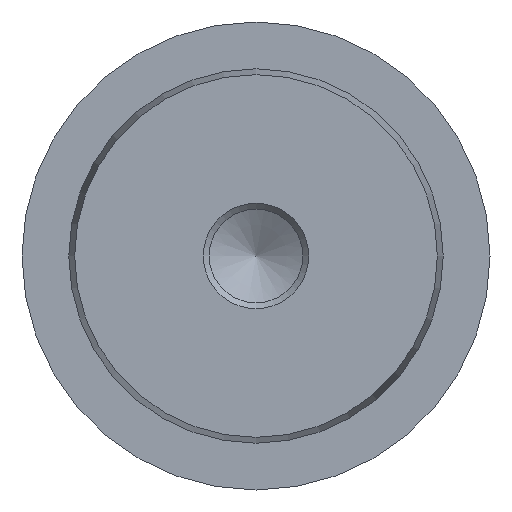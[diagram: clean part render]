
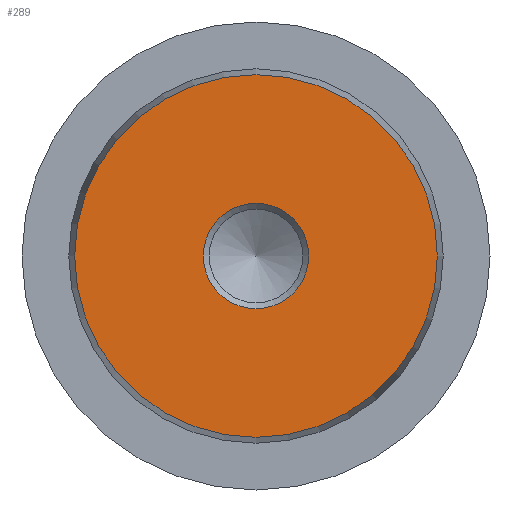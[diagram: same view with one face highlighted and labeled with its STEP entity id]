
A CAD part, left-side view. The second image highlights one B-rep face of the part: STEP entity #289.
In plain terms, the highlighted planar face has unit normal (-1, 0, 0).
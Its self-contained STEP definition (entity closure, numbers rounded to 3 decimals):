
#22=FACE_BOUND('',#94,.T.);
#26=PLANE('',#338);
#72=FACE_OUTER_BOUND('',#93,.T.);
#93=EDGE_LOOP('',(#210));
#94=EDGE_LOOP('',(#211));
#119=CIRCLE('',#337,4.5);
#120=CIRCLE('',#339,15.5);
#139=VERTEX_POINT('',#487);
#140=VERTEX_POINT('',#491);
#165=EDGE_CURVE('',#139,#139,#119,.T.);
#166=EDGE_CURVE('',#140,#140,#120,.T.);
#210=ORIENTED_EDGE('',*,*,#166,.F.);
#211=ORIENTED_EDGE('',*,*,#165,.T.);
#289=ADVANCED_FACE('',(#72,#22),#26,.T.);
#337=AXIS2_PLACEMENT_3D('',#489,#396,#397);
#338=AXIS2_PLACEMENT_3D('',#490,#398,#399);
#339=AXIS2_PLACEMENT_3D('',#492,#400,#401);
#396=DIRECTION('center_axis',(1.,0.,0.));
#397=DIRECTION('ref_axis',(0.,0.,-1.));
#398=DIRECTION('center_axis',(-1.,0.,0.));
#399=DIRECTION('ref_axis',(0.,0.,1.));
#400=DIRECTION('center_axis',(1.,0.,0.));
#401=DIRECTION('ref_axis',(0.,0.,-1.));
#487=CARTESIAN_POINT('',(0.,-4.5,0.));
#489=CARTESIAN_POINT('Origin',(0.,0.,0.));
#490=CARTESIAN_POINT('Origin',(0.,15.5,0.));
#491=CARTESIAN_POINT('',(0.,-15.5,0.));
#492=CARTESIAN_POINT('Origin',(0.,0.,0.));
